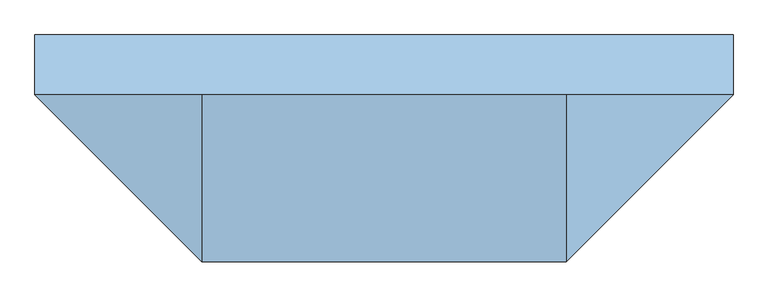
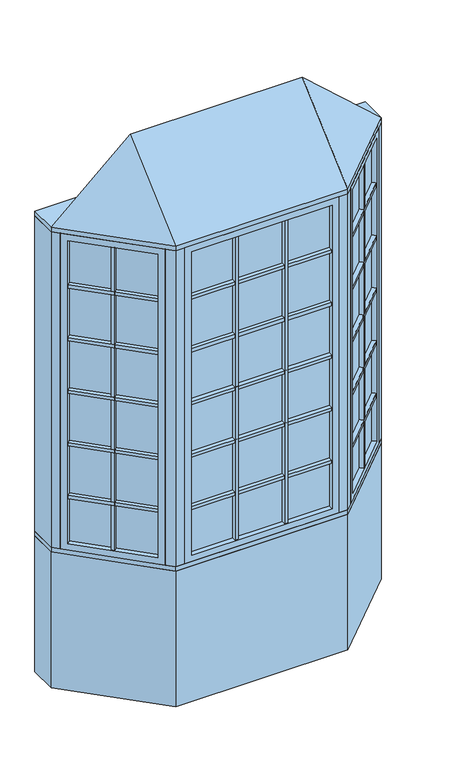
"""IFC4 building model written with IfcOpenShell, lengths in millimetres: window geometry, Pollard_Windows_Tudor Casement Bows and Bays : AML-BAY 45 AFR0518-08-500_GC."""

from ifc_helpers import new_model, si_unit, frame, origin, origin_with_axes, place, context, project, spatial, polyline, outline, extrude, faceted_brep, source, transform, mapped, element, save


def window_d25a807c(model_context):
    return source(origin(), model_context, "Body", "SolidModel", [
        extrude(outline(polyline([(522.8614193, -437.1108753), (507.3050701, -421.5545261), (815.116171, -113.7434252), (830.6725202, -129.2997743), (522.8614193, -437.1108753)])), frame((0.0, 0.0, 1690.998), z_axis=(0.0, 0.0, 1.0), x_axis=(1.0, 0.0, 0.0)), (0.0, 0.0, 1.0), 18.0),
        extrude(outline(polyline([(503.7129677, -417.9624236), (488.1566185, -402.4060744), (795.9677194, -94.5949735), (811.5240686, -110.1513227), (503.7129677, -417.9624236)])), frame((0.0, 0.0, 1690.998), z_axis=(0.0, 0.0, 1.0), x_axis=(1.0, 0.0, 0.0)), (0.0, 0.0, 1.0), 18.0),
        extrude(outline(polyline([(522.8614193, -437.1108753), (507.3050701, -421.5545261), (815.116171, -113.7434252), (830.6725202, -129.2997743), (522.8614193, -437.1108753)])), frame((0.0, 0.0, 1090.998), z_axis=(0.0, 0.0, 1.0), x_axis=(1.0, 0.0, 0.0)), (0.0, 0.0, 1.0), 18.0),
        extrude(outline(polyline([(503.7129677, -417.9624236), (488.1566185, -402.4060744), (795.9677194, -94.5949735), (811.5240686, -110.1513227), (503.7129677, -417.9624236)])), frame((0.0, 0.0, 1090.998), z_axis=(0.0, 0.0, 1.0), x_axis=(1.0, 0.0, 0.0)), (0.0, 0.0, 1.0), 18.0),
        extrude(outline(polyline([(522.8614193, -437.1108753), (507.3050701, -421.5545261), (815.116171, -113.7434252), (830.6725202, -129.2997743), (522.8614193, -437.1108753)])), frame((0.0, 0.0, 1390.998), z_axis=(0.0, 0.0, 1.0), x_axis=(1.0, 0.0, 0.0)), (0.0, 0.0, 1.0), 18.0),
        extrude(outline(polyline([(503.7129677, -417.9624236), (488.1566185, -402.4060744), (795.9677194, -94.5949735), (811.5240686, -110.1513227), (503.7129677, -417.9624236)])), frame((0.0, 0.0, 1390.998), z_axis=(0.0, 0.0, 1.0), x_axis=(1.0, 0.0, 0.0)), (0.0, 0.0, 1.0), 18.0),
        extrude(outline(polyline([(522.8614193, -437.1108753), (507.3050701, -421.5545261), (815.116171, -113.7434252), (830.6725202, -129.2997743), (522.8614193, -437.1108753)])), frame((0.0, 0.0, 1990.998), z_axis=(0.0, 0.0, 1.0), x_axis=(1.0, 0.0, 0.0)), (0.0, 0.0, 1.0), 18.0),
        extrude(outline(polyline([(503.7129677, -417.9624236), (488.1566185, -402.4060744), (795.9677194, -94.5949735), (811.5240686, -110.1513227), (503.7129677, -417.9624236)])), frame((0.0, 0.0, 1990.998), z_axis=(0.0, 0.0, 1.0), x_axis=(1.0, 0.0, 0.0)), (0.0, 0.0, 1.0), 18.0),
        extrude(outline(polyline([(522.8614193, -437.1108753), (507.3050701, -421.5545261), (815.116171, -113.7434252), (830.6725202, -129.2997743), (522.8614193, -437.1108753)])), frame((0.0, 0.0, 2290.998), z_axis=(0.0, 0.0, 1.0), x_axis=(1.0, 0.0, 0.0)), (0.0, 0.0, 1.0), 18.0),
        extrude(outline(polyline([(503.7129677, -417.9624236), (488.1566185, -402.4060744), (795.9677194, -94.5949735), (811.5240686, -110.1513227), (503.7129677, -417.9624236)])), frame((0.0, 0.0, 2290.998), z_axis=(0.0, 0.0, 1.0), x_axis=(1.0, 0.0, 0.0)), (0.0, 0.0, 1.0), 18.0),
        extrude(outline(polyline([(667.5745816, -261.2850146), (683.1309308, -276.8413638), (670.4030087, -289.5692858), (654.8466595, -274.0129366), (667.5745816, -261.2850146)])), frame((0.0, 0.0, 835.8628), z_axis=(0.0, 0.0, 1.0), x_axis=(1.0, 0.0, 0.0)), (0.0, 0.0, 1.0), 1728.2704),
        extrude(outline(polyline([(663.9824791, -257.6929121), (651.2545571, -270.4208342), (635.6982079, -254.864485), (648.42613, -242.1365629), (663.9824791, -257.6929121)])), frame((0.0, 0.0, 835.8628), z_axis=(0.0, 0.0, 1.0), x_axis=(1.0, 0.0, 0.0)), (0.0, 0.0, 1.0), 1728.2704),
        extrude(outline(polyline([(824.0964271, -104.763169), (498.324814, -430.5347822), (494.7327115, -426.9426797), (820.5043247, -101.1710666), (824.0964271, -104.763169)])), frame((0.0, 0.0, 823.1628), z_axis=(0.0, 0.0, 1.0), x_axis=(1.0, 0.0, 0.0)), (0.0, 0.0, 1.0), 1753.6704),
        faceted_brep([(815.116171, -113.7434252, 835.8628), (833.0766833, -131.7039374, 835.8628), (833.0766833, -131.7039374, 2564.1332), (815.116171, -113.7434252, 2564.1332), (820.5043247, -101.1710666, 823.1628), (824.0964271, -104.763169, 823.1628), (824.0964271, -104.763169, 2576.8332), (820.5043247, -101.1710666, 2576.8332), (793.5635563, -92.1908105, 835.8628), (811.5240686, -110.1513227, 835.8628), (811.5240686, -110.1513227, 2564.1332), (793.5635563, -92.1908105, 2564.1332), (858.4369265, -106.3436941, 799.998), (818.9237996, -66.8305672, 799.998), (818.9237996, -66.8305672, 2599.998), (858.4369265, -106.3436941, 2599.998), (525.2655823, -439.5150383, 2564.1332), (507.3050701, -421.5545261, 2564.1332), (498.324814, -430.5347822, 2576.8332), (494.7327115, -426.9426797, 2576.8332), (503.7129677, -417.9624236, 2564.1332), (485.7524554, -400.0019114, 2564.1332), (460.3922121, -425.3621547, 2599.998), (499.9053391, -464.8752816, 2599.998), (525.2655823, -439.5150383, 835.8628), (507.3050701, -421.5545261, 835.8628), (498.324814, -430.5347822, 823.1628), (494.7327115, -426.9426797, 823.1628), (503.7129677, -417.9624236, 835.8628), (485.7524554, -400.0019114, 835.8628), (460.3922121, -425.3621547, 799.998), (499.9053391, -464.8752816, 799.998)], [[[0, 1, 2, 3]], [[4, 5, 6, 7]], [[8, 9, 10, 11]], [[12, 13, 14, 15]], [[3, 2, 16, 17]], [[7, 6, 18, 19]], [[11, 10, 20, 21]], [[15, 14, 22, 23]], [[17, 16, 24, 25]], [[19, 18, 26, 27]], [[21, 20, 28, 29]], [[23, 22, 30, 31]], [[25, 24, 1, 0]], [[5, 26, 18, 6], [3, 17, 25, 0]], [[27, 26, 5, 4]], [[7, 19, 27, 4], [9, 28, 20, 10]], [[29, 28, 9, 8]], [[13, 30, 22, 14], [11, 21, 29, 8]], [[31, 30, 13, 12]], [[15, 23, 31, 12], [1, 24, 16, 2]]]),
        extrude(outline(polyline([(142.4618667, -474.8306207), (142.4618667, -496.8306207), (124.4618667, -496.8306207), (124.4618667, -474.8306207), (142.4618667, -474.8306207)])), frame((0.0, 0.0, 835.8628), z_axis=(0.0, 0.0, 1.0), x_axis=(1.0, 0.0, 0.0)), (0.0, 0.0, 1.0), 1728.2704),
        extrude(outline(polyline([(142.4618667, -469.7506207), (124.4618667, -469.7506207), (124.4618667, -447.7506207), (142.4618667, -447.7506207), (142.4618667, -469.7506207)])), frame((0.0, 0.0, 835.8628), z_axis=(0.0, 0.0, 1.0), x_axis=(1.0, 0.0, 0.0)), (0.0, 0.0, 1.0), 1728.2704),
        extrude(outline(polyline([(-124.4618667, -474.8306207), (-124.4618667, -496.8306207), (-142.4618667, -496.8306207), (-142.4618667, -474.8306207), (-124.4618667, -474.8306207)])), frame((0.0, 0.0, 835.8628), z_axis=(0.0, 0.0, 1.0), x_axis=(1.0, 0.0, 0.0)), (0.0, 0.0, 1.0), 1728.2704),
        extrude(outline(polyline([(-124.4618667, -469.7506207), (-142.4618667, -469.7506207), (-142.4618667, -447.7506207), (-124.4618667, -447.7506207), (-124.4618667, -469.7506207)])), frame((0.0, 0.0, 835.8628), z_axis=(0.0, 0.0, 1.0), x_axis=(1.0, 0.0, 0.0)), (0.0, 0.0, 1.0), 1728.2704),
        extrude(outline(polyline([(-378.6852, -496.8306207), (-378.6852, -474.8306207), (378.6852, -474.8306207), (378.6852, -496.8306207), (-378.6852, -496.8306207)])), frame((0.0, 0.0, 1090.998), z_axis=(0.0, 0.0, 1.0), x_axis=(1.0, 0.0, 0.0)), (0.0, 0.0, 1.0), 18.0),
        extrude(outline(polyline([(-378.6852, -469.7506207), (-378.6852, -447.7506207), (378.6852, -447.7506207), (378.6852, -469.7506207), (-378.6852, -469.7506207)])), frame((0.0, 0.0, 1090.998), z_axis=(0.0, 0.0, 1.0), x_axis=(1.0, 0.0, 0.0)), (0.0, 0.0, 1.0), 18.0),
        extrude(outline(polyline([(-378.6852, -496.8306207), (-378.6852, -474.8306207), (378.6852, -474.8306207), (378.6852, -496.8306207), (-378.6852, -496.8306207)])), frame((0.0, 0.0, 1390.998), z_axis=(0.0, 0.0, 1.0), x_axis=(1.0, 0.0, 0.0)), (0.0, 0.0, 1.0), 18.0),
        extrude(outline(polyline([(-378.6852, -469.7506207), (-378.6852, -447.7506207), (378.6852, -447.7506207), (378.6852, -469.7506207), (-378.6852, -469.7506207)])), frame((0.0, 0.0, 1390.998), z_axis=(0.0, 0.0, 1.0), x_axis=(1.0, 0.0, 0.0)), (0.0, 0.0, 1.0), 18.0),
        extrude(outline(polyline([(-378.6852, -496.8306207), (-378.6852, -474.8306207), (378.6852, -474.8306207), (378.6852, -496.8306207), (-378.6852, -496.8306207)])), frame((0.0, 0.0, 1690.998), z_axis=(0.0, 0.0, 1.0), x_axis=(1.0, 0.0, 0.0)), (0.0, 0.0, 1.0), 18.0),
        extrude(outline(polyline([(-378.6852, -469.7506207), (-378.6852, -447.7506207), (378.6852, -447.7506207), (378.6852, -469.7506207), (-378.6852, -469.7506207)])), frame((0.0, 0.0, 1690.998), z_axis=(0.0, 0.0, 1.0), x_axis=(1.0, 0.0, 0.0)), (0.0, 0.0, 1.0), 18.0),
        extrude(outline(polyline([(-378.6852, -496.8306207), (-378.6852, -474.8306207), (378.6852, -474.8306207), (378.6852, -496.8306207), (-378.6852, -496.8306207)])), frame((0.0, 0.0, 1990.998), z_axis=(0.0, 0.0, 1.0), x_axis=(1.0, 0.0, 0.0)), (0.0, 0.0, 1.0), 18.0),
        extrude(outline(polyline([(-378.6852, -469.7506207), (-378.6852, -447.7506207), (378.6852, -447.7506207), (378.6852, -469.7506207), (-378.6852, -469.7506207)])), frame((0.0, 0.0, 1990.998), z_axis=(0.0, 0.0, 1.0), x_axis=(1.0, 0.0, 0.0)), (0.0, 0.0, 1.0), 18.0),
        extrude(outline(polyline([(-830.6725202, -129.2997743), (-815.116171, -113.7434252), (-507.3050701, -421.5545261), (-522.8614193, -437.1108753), (-830.6725202, -129.2997743)])), frame((0.0, 0.0, 1090.998), z_axis=(0.0, 0.0, 1.0), x_axis=(1.0, 0.0, 0.0)), (0.0, 0.0, 1.0), 18.0),
        extrude(outline(polyline([(-811.5240686, -110.1513227), (-795.9677194, -94.5949735), (-488.1566185, -402.4060744), (-503.7129677, -417.9624236), (-811.5240686, -110.1513227)])), frame((0.0, 0.0, 1090.998), z_axis=(0.0, 0.0, 1.0), x_axis=(1.0, 0.0, 0.0)), (0.0, 0.0, 1.0), 18.0),
        extrude(outline(polyline([(-830.6725202, -129.2997743), (-815.116171, -113.7434252), (-507.3050701, -421.5545261), (-522.8614193, -437.1108753), (-830.6725202, -129.2997743)])), frame((0.0, 0.0, 1390.998), z_axis=(0.0, 0.0, 1.0), x_axis=(1.0, 0.0, 0.0)), (0.0, 0.0, 1.0), 18.0),
        extrude(outline(polyline([(-811.5240686, -110.1513227), (-795.9677194, -94.5949735), (-488.1566185, -402.4060744), (-503.7129677, -417.9624236), (-811.5240686, -110.1513227)])), frame((0.0, 0.0, 1390.998), z_axis=(0.0, 0.0, 1.0), x_axis=(1.0, 0.0, 0.0)), (0.0, 0.0, 1.0), 18.0),
        extrude(outline(polyline([(-830.6725202, -129.2997743), (-815.116171, -113.7434252), (-507.3050701, -421.5545261), (-522.8614193, -437.1108753), (-830.6725202, -129.2997743)])), frame((0.0, 0.0, 1690.998), z_axis=(0.0, 0.0, 1.0), x_axis=(1.0, 0.0, 0.0)), (0.0, 0.0, 1.0), 18.0),
        extrude(outline(polyline([(-811.5240686, -110.1513227), (-795.9677194, -94.5949735), (-488.1566185, -402.4060744), (-503.7129677, -417.9624236), (-811.5240686, -110.1513227)])), frame((0.0, 0.0, 1690.998), z_axis=(0.0, 0.0, 1.0), x_axis=(1.0, 0.0, 0.0)), (0.0, 0.0, 1.0), 18.0),
        extrude(outline(polyline([(-830.6725202, -129.2997743), (-815.116171, -113.7434252), (-507.3050701, -421.5545261), (-522.8614193, -437.1108753), (-830.6725202, -129.2997743)])), frame((0.0, 0.0, 1990.998), z_axis=(0.0, 0.0, 1.0), x_axis=(1.0, 0.0, 0.0)), (0.0, 0.0, 1.0), 18.0),
        extrude(outline(polyline([(-811.5240686, -110.1513227), (-795.9677194, -94.5949735), (-488.1566185, -402.4060744), (-503.7129677, -417.9624236), (-811.5240686, -110.1513227)])), frame((0.0, 0.0, 1990.998), z_axis=(0.0, 0.0, 1.0), x_axis=(1.0, 0.0, 0.0)), (0.0, 0.0, 1.0), 18.0),
        extrude(outline(polyline([(-830.6725202, -129.2997743), (-815.116171, -113.7434252), (-507.3050701, -421.5545261), (-522.8614193, -437.1108753), (-830.6725202, -129.2997743)])), frame((0.0, 0.0, 2290.998), z_axis=(0.0, 0.0, 1.0), x_axis=(1.0, 0.0, 0.0)), (0.0, 0.0, 1.0), 18.0),
        extrude(outline(polyline([(-811.5240686, -110.1513227), (-795.9677194, -94.5949735), (-488.1566185, -402.4060744), (-503.7129677, -417.9624236), (-811.5240686, -110.1513227)])), frame((0.0, 0.0, 2290.998), z_axis=(0.0, 0.0, 1.0), x_axis=(1.0, 0.0, 0.0)), (0.0, 0.0, 1.0), 18.0),
        extrude(outline(polyline([(-378.6852, -496.8306207), (-378.6852, -474.8306207), (378.6852, -474.8306207), (378.6852, -496.8306207), (-378.6852, -496.8306207)])), frame((0.0, 0.0, 2290.998), z_axis=(0.0, 0.0, 1.0), x_axis=(1.0, 0.0, 0.0)), (0.0, 0.0, 1.0), 18.0),
        extrude(outline(polyline([(-378.6852, -469.7506207), (-378.6852, -447.7506207), (378.6852, -447.7506207), (378.6852, -469.7506207), (-378.6852, -469.7506207)])), frame((0.0, 0.0, 2290.998), z_axis=(0.0, 0.0, 1.0), x_axis=(1.0, 0.0, 0.0)), (0.0, 0.0, 1.0), 18.0),
        extrude(outline(polyline([(-654.8466595, -274.0129366), (-670.4030087, -289.5692858), (-683.1309308, -276.8413638), (-667.5745816, -261.2850146), (-654.8466595, -274.0129366)])), frame((0.0, 0.0, 835.8628), z_axis=(0.0, 0.0, 1.0), x_axis=(1.0, 0.0, 0.0)), (0.0, 0.0, 1.0), 1728.2704),
        extrude(outline(polyline([(-651.2545571, -270.4208342), (-663.9824791, -257.6929121), (-648.42613, -242.1365629), (-635.6982079, -254.864485), (-651.2545571, -270.4208342)])), frame((0.0, 0.0, 835.8628), z_axis=(0.0, 0.0, 1.0), x_axis=(1.0, 0.0, 0.0)), (0.0, 0.0, 1.0), 1728.2704),
        extrude(outline(polyline([(-498.324814, -430.5347822), (-824.0964271, -104.763169), (-820.5043247, -101.1710666), (-494.7327115, -426.9426797), (-498.324814, -430.5347822)])), frame((0.0, 0.0, 823.1628), z_axis=(0.0, 0.0, 1.0), x_axis=(1.0, 0.0, 0.0)), (0.0, 0.0, 1.0), 1753.6704),
        faceted_brep([(-503.7129677, -417.9624236, 2564.1332), (-485.7524554, -400.0019114, 2564.1332), (-485.7524554, -400.0019114, 835.8628), (-503.7129677, -417.9624236, 835.8628), (-498.324814, -430.5347822, 2576.8332), (-494.7327115, -426.9426797, 2576.8332), (-494.7327115, -426.9426797, 823.1628), (-498.324814, -430.5347822, 823.1628), (-525.2655823, -439.5150383, 2564.1332), (-507.3050701, -421.5545261, 2564.1332), (-507.3050701, -421.5545261, 835.8628), (-525.2655823, -439.5150383, 835.8628), (-460.3922121, -425.3621547, 2599.998), (-499.9053391, -464.8752816, 2599.998), (-499.9053391, -464.8752816, 799.998), (-460.3922121, -425.3621547, 799.998), (-793.5635563, -92.1908105, 835.8628), (-811.5240686, -110.1513227, 835.8628), (-820.5043247, -101.1710666, 823.1628), (-824.0964271, -104.763169, 823.1628), (-815.116171, -113.7434252, 835.8628), (-833.0766833, -131.7039374, 835.8628), (-858.4369265, -106.3436941, 799.998), (-818.9237996, -66.8305672, 799.998), (-793.5635563, -92.1908105, 2564.1332), (-811.5240686, -110.1513227, 2564.1332), (-820.5043247, -101.1710666, 2576.8332), (-824.0964271, -104.763169, 2576.8332), (-815.116171, -113.7434252, 2564.1332), (-833.0766833, -131.7039374, 2564.1332), (-858.4369265, -106.3436941, 2599.998), (-818.9237996, -66.8305672, 2599.998)], [[[0, 1, 2, 3]], [[4, 5, 6, 7]], [[8, 9, 10, 11]], [[12, 13, 14, 15]], [[3, 2, 16, 17]], [[7, 6, 18, 19]], [[11, 10, 20, 21]], [[15, 14, 22, 23]], [[17, 16, 24, 25]], [[19, 18, 26, 27]], [[21, 20, 28, 29]], [[23, 22, 30, 31]], [[15, 23, 31, 12], [1, 24, 16, 2]], [[25, 24, 1, 0]], [[5, 26, 18, 6], [3, 17, 25, 0]], [[27, 26, 5, 4]], [[7, 19, 27, 4], [9, 28, 20, 10]], [[29, 28, 9, 8]], [[13, 30, 22, 14], [11, 21, 29, 8]], [[31, 30, 13, 12]]]),
        extrude(outline(polyline([(391.3852, -474.8306207), (-391.3852, -474.8306207), (-391.3852, -469.7506207), (391.3852, -469.7506207), (391.3852, -474.8306207)])), frame((0.0, 0.0, 823.1628), z_axis=(0.0, 0.0, 1.0), x_axis=(1.0, 0.0, 0.0)), (0.0, 0.0, 1.0), 1753.6704),
        faceted_brep([(378.6852, -474.8306207, 835.8628), (378.6852, -500.2306207, 835.8628), (378.6852, -500.2306207, 2564.1332), (378.6852, -474.8306207, 2564.1332), (391.3852, -469.7506207, 823.1628), (391.3852, -474.8306207, 823.1628), (391.3852, -474.8306207, 2576.8332), (391.3852, -469.7506207, 2576.8332), (378.6852, -444.3506207, 835.8628), (378.6852, -469.7506207, 835.8628), (378.6852, -469.7506207, 2564.1332), (378.6852, -444.3506207, 2564.1332), (414.55, -500.2306207, 799.998), (414.55, -444.3506207, 799.998), (414.55, -444.3506207, 2599.998), (414.55, -500.2306207, 2599.998), (-378.6852, -500.2306207, 2564.1332), (-378.6852, -474.8306207, 2564.1332), (-391.3852, -474.8306207, 2576.8332), (-391.3852, -469.7506207, 2576.8332), (-378.6852, -469.7506207, 2564.1332), (-378.6852, -444.3506207, 2564.1332), (-414.55, -444.3506207, 2599.998), (-414.55, -500.2306207, 2599.998), (-378.6852, -500.2306207, 835.8628), (-378.6852, -474.8306207, 835.8628), (-391.3852, -474.8306207, 823.1628), (-391.3852, -469.7506207, 823.1628), (-378.6852, -469.7506207, 835.8628), (-378.6852, -444.3506207, 835.8628), (-414.55, -444.3506207, 799.998), (-414.55, -500.2306207, 799.998)], [[[0, 1, 2, 3]], [[4, 5, 6, 7]], [[8, 9, 10, 11]], [[12, 13, 14, 15]], [[3, 2, 16, 17]], [[7, 6, 18, 19]], [[11, 10, 20, 21]], [[15, 14, 22, 23]], [[17, 16, 24, 25]], [[19, 18, 26, 27]], [[21, 20, 28, 29]], [[23, 22, 30, 31]], [[15, 23, 31, 12], [1, 24, 16, 2]], [[25, 24, 1, 0]], [[5, 26, 18, 6], [3, 17, 25, 0]], [[27, 26, 5, 4]], [[7, 19, 27, 4], [9, 28, 20, 10]], [[29, 28, 9, 8]], [[13, 30, 22, 14], [11, 21, 29, 8]], [[31, 30, 13, 12]]]),
        faceted_brep([(890.0, -74.7806207, 2625.398), (464.55, -500.2306207, 2625.398), (-464.55, -500.2306207, 2625.398), (-890.0, -74.7806207, 2625.398), (-464.55, -74.7806207, 3006.398), (464.55, -74.7806207, 3006.398)], [[[0, 1, 2, 3]], [[3, 2, 4]], [[2, 1, 5, 4]], [[1, 0, 5]], [[0, 3, 4, 5]]]),
        extrude(outline(polyline([(-890.0, 77.6193793), (890.0, 77.6193793), (890.0, -74.7806207), (464.55, -500.2306207), (-464.55, -500.2306207), (-890.0, -74.7806207), (-890.0, 77.6193793)])), frame((0.0, 0.0, 2599.998), z_axis=(0.0, 0.0, 1.0), x_axis=(1.0, 0.0, 0.0)), (0.0, 0.0, 1.0), 25.4),
        extrude(outline(polyline([(-890.0, -74.7806207), (-890.0, 77.6193793), (-826.8738531, 77.6193793), (-826.8738531, -74.7806207), (-858.4369265, -106.3436941), (-890.0, -74.7806207)])), frame((0.0, 0.0, 799.998), z_axis=(0.0, 0.0, 1.0), x_axis=(1.0, 0.0, 0.0)), (0.0, 0.0, 1.0), 1800.0),
        extrude(outline(polyline([(890.0, 77.6193793), (890.0, -74.7806207), (858.4369265, -106.3436941), (826.8738531, -74.7806207), (826.8738531, 77.6193793), (890.0, 77.6193793)])), frame((0.0, 0.0, 799.998), z_axis=(0.0, 0.0, 1.0), x_axis=(1.0, 0.0, 0.0)), (0.0, 0.0, 1.0), 1800.0),
        extrude(outline(polyline([(464.55, -500.2306207), (414.55, -500.2306207), (414.55, -450.2306207), (443.8393219, -450.2306207), (464.55, -429.5199425), (499.9053391, -464.8752816), (464.55, -500.2306207)])), frame((0.0, 0.0, 799.998), z_axis=(0.0, 0.0, 1.0), x_axis=(1.0, 0.0, 0.0)), (0.0, 0.0, 1.0), 1800.0),
        extrude(outline(polyline([(-464.55, -500.2306207), (-499.9053391, -464.8752816), (-464.55, -429.5199425), (-443.8393219, -450.2306207), (-414.55, -450.2306207), (-414.55, -500.2306207), (-464.55, -500.2306207)])), frame((0.0, 0.0, 799.998), z_axis=(0.0, 0.0, 1.0), x_axis=(1.0, 0.0, 0.0)), (0.0, 0.0, 1.0), 1800.0),
        extrude(outline(polyline([(-464.55, -500.2306207), (-890.0, -74.7806207), (-890.0, 77.6193793), (-826.8738531, 77.6193793), (-401.4238531, -347.8306207), (401.4238531, -347.8306207), (826.8738531, 77.6193793), (890.0, 77.6193793), (890.0, -74.7806207), (464.55, -500.2306207), (-464.55, -500.2306207)])), frame((0.0, 0.0, 774.598), z_axis=(0.0, 0.0, 1.0), x_axis=(1.0, 0.0, 0.0)), (0.0, 0.0, 1.0), 25.4),
        extrude(outline(polyline([(-890.0, -74.7806207), (-890.0, 77.6193793), (-826.8738531, 77.6193793), (-401.4238531, -347.8306207), (401.4238531, -347.8306207), (826.8738531, 77.6193793), (890.0, 77.6193793), (890.0, -74.7806207), (464.55, -500.2306207), (-464.55, -500.2306207), (-890.0, -74.7806207)])), origin_with_axes(), (0.0, 0.0, 1.0), 774.598),
    ])


if __name__ == "__main__":
    model = new_model("IFC4")
    model_context = context("Model", 3, world=origin())
    ifc_project = project(units=[si_unit("LENGTHUNIT", "METRE", prefix="MILLI")], contexts=[model_context])
    site = spatial("IfcSite", under=ifc_project)
    building = spatial("IfcBuilding", under=site)
    placement = place(None, origin())
    window_shape = window_d25a807c(model_context)
    element("IfcWindow", 1, ObjectType="Pollard_Windows_Tudor Casement Bows and Bays : AML-BAY 45 AFR0518-08-500_GC", at=placement, inside=building, context=model_context, shape_type="MappedRepresentation", body=[
        mapped(window_shape, transform((0.0, 0.0, 0.0), x_axis=(1.0, 0.0, 0.0), y_axis=(0.0, 1.0, 0.0), z_axis=(0.0, 0.0, 1.0))),
    ])
    save(model, "model.ifc")
